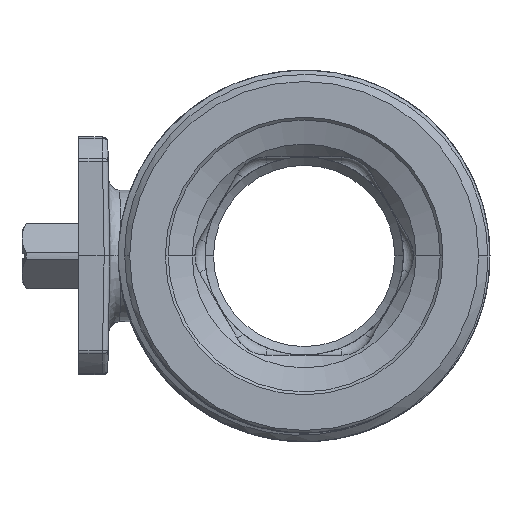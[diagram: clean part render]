
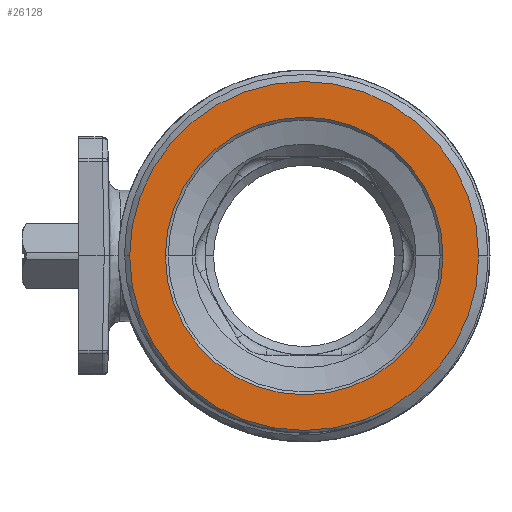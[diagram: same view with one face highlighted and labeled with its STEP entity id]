
A CAD part, left-side view. The second image highlights one B-rep face of the part: STEP entity #26128.
In plain terms, the highlighted planar face has unit normal (-1, 0, 0).
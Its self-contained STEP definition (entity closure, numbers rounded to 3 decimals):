
#2887=CARTESIAN_POINT('',(-58.1,0.,0.));
#2888=DIRECTION('',(-1.,0.,0.));
#2889=DIRECTION('',(0.,-1.,0.));
#2890=AXIS2_PLACEMENT_3D('',#2887,#2888,#2889);
#2892=CARTESIAN_POINT('',(-58.1,0.,0.));
#2893=DIRECTION('',(1.,0.,0.));
#2894=DIRECTION('',(0.,-1.,0.));
#2895=AXIS2_PLACEMENT_3D('',#2892,#2893,#2894);
#2897=CARTESIAN_POINT('',(-58.1,0.,0.));
#2898=DIRECTION('',(1.,0.,0.));
#2899=DIRECTION('',(0.,-1.,0.));
#2900=AXIS2_PLACEMENT_3D('',#2897,#2898,#2899);
#2910=CARTESIAN_POINT('',(-58.1,0.,0.));
#2911=DIRECTION('',(-1.,0.,0.));
#2912=DIRECTION('',(0.,-1.,0.));
#2913=AXIS2_PLACEMENT_3D('',#2910,#2911,#2912);
#21516=CARTESIAN_POINT('',(-58.1,-24.5,0.));
#21518=VERTEX_POINT('',#21516);
#21524=CARTESIAN_POINT('',(-58.1,24.5,0.));
#21526=VERTEX_POINT('',#21524);
#21532=CARTESIAN_POINT('',(-58.1,-30.8,0.));
#21533=CARTESIAN_POINT('',(-58.1,30.8,0.));
#21534=VERTEX_POINT('',#21532);
#21535=VERTEX_POINT('',#21533);
#26113=CARTESIAN_POINT('',(-58.1,0.,0.));
#26114=DIRECTION('',(1.,0.,0.));
#26115=DIRECTION('',(0.,-1.,0.));
#26116=AXIS2_PLACEMENT_3D('',#26113,#26114,#26115);
#26117=PLANE('',#26116);
#26118=ORIENTED_EDGE('',*,*,#26107,.F.);
#26119=ORIENTED_EDGE('',*,*,#24913,.T.);
#26120=EDGE_LOOP('',(#26118,#26119));
#26121=FACE_OUTER_BOUND('',#26120,.F.);
#26123=ORIENTED_EDGE('',*,*,#26122,.F.);
#26125=ORIENTED_EDGE('',*,*,#26124,.T.);
#26126=EDGE_LOOP('',(#26123,#26125));
#26127=FACE_BOUND('',#26126,.F.);
#2891=CIRCLE('',#2890,30.8);
#2896=CIRCLE('',#2895,30.8);
#2901=CIRCLE('',#2900,24.5);
#2914=CIRCLE('',#2913,24.5);
#24913=EDGE_CURVE('',#21534,#21535,#2896,.T.);
#26107=EDGE_CURVE('',#21534,#21535,#2891,.T.);
#26122=EDGE_CURVE('',#21518,#21526,#2901,.T.);
#26124=EDGE_CURVE('',#21518,#21526,#2914,.T.);
#26128=ADVANCED_FACE('',(#26121,#26127),#26117,.F.);
